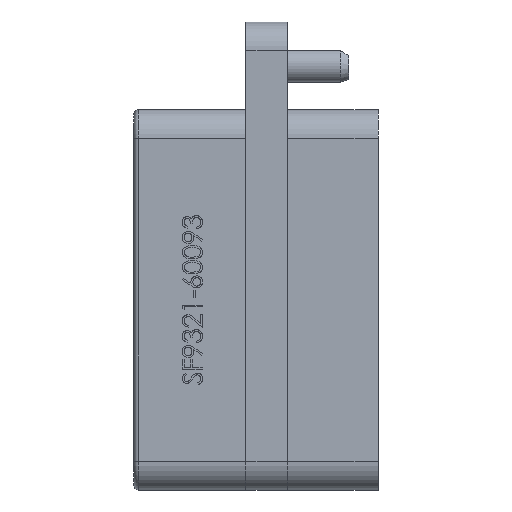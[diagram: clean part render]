
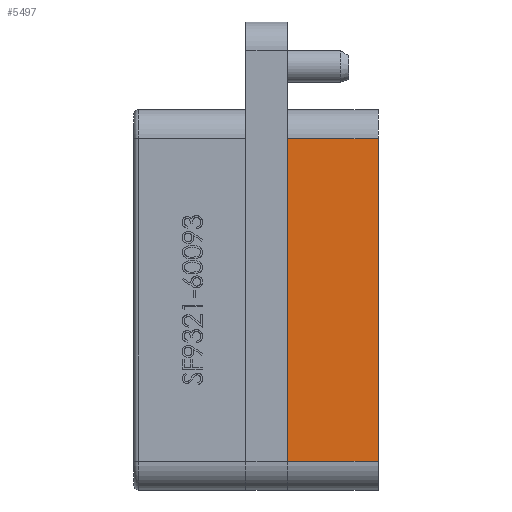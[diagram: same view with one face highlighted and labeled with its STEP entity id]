
A CAD part, left-side view. The second image highlights one B-rep face of the part: STEP entity #5497.
In plain terms, the highlighted planar face has unit normal (-1, 0, 0).
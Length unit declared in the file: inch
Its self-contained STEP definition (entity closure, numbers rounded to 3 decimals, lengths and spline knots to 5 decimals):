
#605 = CARTESIAN_POINT ( 'NONE',  ( -2.3196, 0.77252, 0.55247 ) ) ;
#4341 = ORIENTED_EDGE ( 'NONE', *, *, #14710, .F. ) ;
#4915 = DIRECTION ( 'NONE',  ( -1., 0., 0. ) ) ;
#5497 = ADVANCED_FACE ( 'NONE', ( #20582 ), #9251, .T. ) ;
#5625 = DIRECTION ( 'NONE',  ( 0., 0., 1. ) ) ;
#6847 = AXIS2_PLACEMENT_3D ( 'NONE', #17879, #4915, #5625 ) ;
#8244 = ORIENTED_EDGE ( 'NONE', *, *, #35039, .T. ) ;
#9241 = VECTOR ( 'NONE', #15053, 39.37008 ) ;
#9251 = PLANE ( 'NONE',  #6847 ) ;
#10574 = LINE ( 'NONE', #11378, #36682 ) ;
#11378 = CARTESIAN_POINT ( 'NONE',  ( -2.3196, 0.58602, 0.55247 ) ) ;
#14419 = LINE ( 'NONE', #18549, #45744 ) ;
#14710 = EDGE_CURVE ( 'NONE', #35814, #21875, #10574, .T. ) ;
#15053 = DIRECTION ( 'NONE',  ( 0., 0., -1. ) ) ;
#15068 = ORIENTED_EDGE ( 'NONE', *, *, #19448, .T. ) ;
#15635 = EDGE_LOOP ( 'NONE', ( #15068, #50931, #4341, #8244 ) ) ;
#16049 = DIRECTION ( 'NONE',  ( 0., 1., 0. ) ) ;
#16565 = LINE ( 'NONE', #38156, #24215 ) ;
#17879 = CARTESIAN_POINT ( 'NONE',  ( -2.3196, 0.58602, 0.55247 ) ) ;
#18549 = CARTESIAN_POINT ( 'NONE',  ( -2.3196, 0.58602, 0.55247 ) ) ;
#19448 = EDGE_CURVE ( 'NONE', #41565, #49704, #16565, .T. ) ;
#20582 = FACE_OUTER_BOUND ( 'NONE', #15635, .T. ) ;
#21875 = VERTEX_POINT ( 'NONE', #605 ) ;
#24215 = VECTOR ( 'NONE', #25175, 39.37008 ) ;
#25175 = DIRECTION ( 'NONE',  ( 0., 1., 0. ) ) ;
#25215 = CARTESIAN_POINT ( 'NONE',  ( -2.3196, 0.77252, 1.21447 ) ) ;
#25848 = LINE ( 'NONE', #35309, #9241 ) ;
#30432 = DIRECTION ( 'NONE',  ( 0., 0., 1. ) ) ;
#35039 = EDGE_CURVE ( 'NONE', #35814, #41565, #14419, .T. ) ;
#35309 = CARTESIAN_POINT ( 'NONE',  ( -2.3196, 0.77252, 0.55247 ) ) ;
#35814 = VERTEX_POINT ( 'NONE', #41225 ) ;
#36682 = VECTOR ( 'NONE', #16049, 39.37008 ) ;
#37643 = CARTESIAN_POINT ( 'NONE',  ( -2.3196, 0.58602, 1.21447 ) ) ;
#38156 = CARTESIAN_POINT ( 'NONE',  ( -2.3196, 0.58602, 1.21447 ) ) ;
#41225 = CARTESIAN_POINT ( 'NONE',  ( -2.3196, 0.58602, 0.55247 ) ) ;
#41565 = VERTEX_POINT ( 'NONE', #37643 ) ;
#45744 = VECTOR ( 'NONE', #30432, 39.37008 ) ;
#49704 = VERTEX_POINT ( 'NONE', #25215 ) ;
#50381 = EDGE_CURVE ( 'NONE', #49704, #21875, #25848, .T. ) ;
#50931 = ORIENTED_EDGE ( 'NONE', *, *, #50381, .T. ) ;
